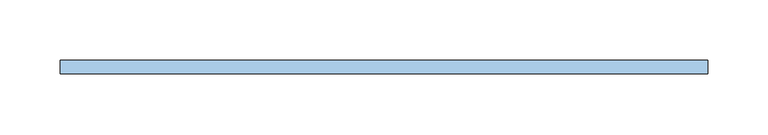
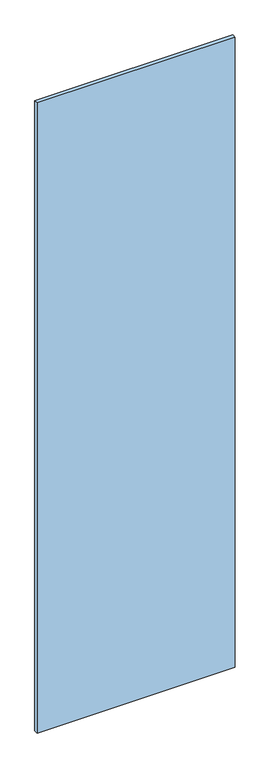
"""IFC4 building model written with IfcOpenShell, lengths in millimetres: window geometry, Baño 1 Fijo simple : CA-6a-cancel baño-1 fijo de .5355."""

from ifc_helpers import new_model, si_unit, origin, origin_with_axes, place, context, project, spatial, polyline, outline, extrude, source, transform, mapped, element, save


def window_4c9df7df(model_context):
    return source(origin(), model_context, "Body", "SweptSolid", [
        extrude(outline(polyline([(-267.75, -5.5), (-267.75, 5.5), (267.75, 5.5), (267.75, -5.5), (-267.75, -5.5)])), origin_with_axes(), (0.0, 0.0, 1.0), 1800.0),
    ])


if __name__ == "__main__":
    model = new_model("IFC4")
    model_context = context("Model", 3, world=origin())
    ifc_project = project(units=[si_unit("LENGTHUNIT", "METRE", prefix="MILLI")], contexts=[model_context])
    site = spatial("IfcSite", under=ifc_project)
    building = spatial("IfcBuilding", under=site)
    placement = place(None, origin())
    window_shape = window_4c9df7df(model_context)
    element("IfcWindow", 1, ObjectType="Baño 1 Fijo simple : CA-6a-cancel baño-1 fijo de .5355", at=placement, inside=building, context=model_context, shape_type="MappedRepresentation", body=[
        mapped(window_shape, transform((0.0, 0.0, 0.0), x_axis=(1.0, 0.0, 0.0), y_axis=(0.0, 1.0, 0.0), z_axis=(0.0, 0.0, 1.0))),
    ])
    save(model, "model.ifc")
